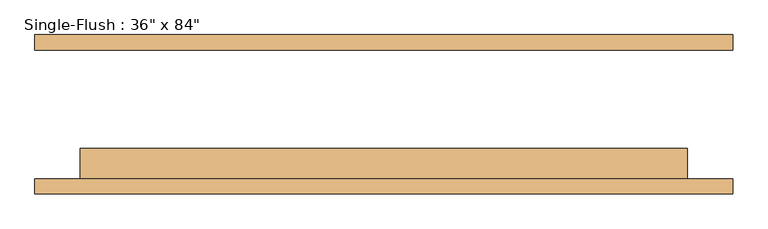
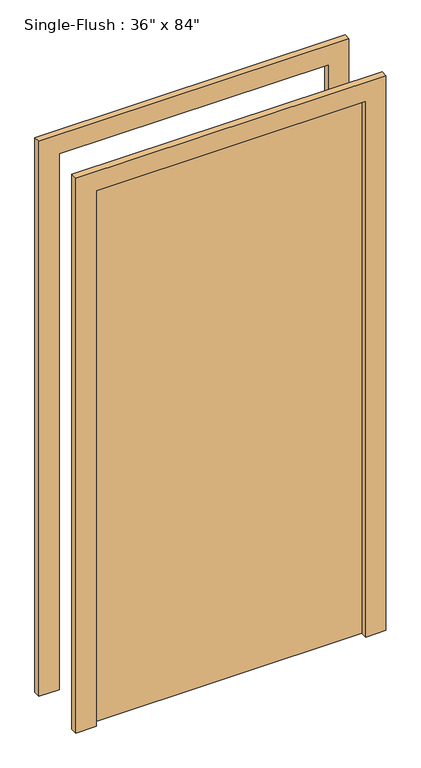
"""IFC4 building model written with IfcOpenShell, lengths in millimetres: door geometry."""

import ifcopenshell
import ifcopenshell.guid

model = None  # the IFC model being written
_history = None  # IfcOwnerHistory: only IFC2X3 demands one
_inside = {}  # id of a spatial element -> (the spatial element, [elements in it])
_under = {}  # id of a project, library or spatial element -> (it, [spatial elements below it])
_declared = {}  # id of a project -> (the project, [libraries it declares])
_typed = {}  # id of a type object -> (the type object, [elements of that type])
_made_of = {}  # id of a material, layer set ... -> (it, [elements and type objects made of it])


def new_model(schema):
    """Start an empty IFC model of exactly this schema.

    Asked for "IFC4X3", IfcOpenShell would pick the latest addendum, in which some entities
    have other attributes; the version numbers below select the first issue.
    IFC2X3 requires an IfcOwnerHistory on every rooted entity: one is made here for all.
    """
    global model, _history
    if schema == "IFC4X3":
        model = ifcopenshell.file(schema_version=(4, 3, 0, 0))
    else:
        model = ifcopenshell.file(schema=schema)
    _inside.clear()
    _under.clear()
    _declared.clear()
    _typed.clear()
    _made_of.clear()
    _history = None
    if model.schema == "IFC2X3":
        org = make("IfcOrganization", Name="unknown")
        user = make(
            "IfcPersonAndOrganization",
            ThePerson=make("IfcPerson", FamilyName="unknown"),
            TheOrganization=org,
        )
        app = make(
            "IfcApplication",
            ApplicationDeveloper=org,
            Version="unknown",
            ApplicationFullName="unknown",
            ApplicationIdentifier="unknown",
        )
        _history = make(
            "IfcOwnerHistory",
            OwningUser=user,
            OwningApplication=app,
            ChangeAction="ADDED",
            CreationDate=0,
        )
    return model


def make(cls, **values):
    """One entity of the class cls with the attributes given. An attribute that is None is left unset."""
    return model.create_entity(
        cls, **{name: value for name, value in values.items() if value is not None}
    )


def rooted(cls, **values):
    """An entity with a GlobalId (a new one), such as an element, a storey or a relation."""
    return make(cls, GlobalId=ifcopenshell.guid.new(), OwnerHistory=_history, **values)


def si_unit(unit_type, name, prefix=None):
    """IfcSIUnit, for example si_unit("LENGTHUNIT", "METRE", prefix="MILLI")."""
    return make("IfcSIUnit", UnitType=unit_type, Prefix=prefix, Name=name)


def assignment(units):
    """IfcUnitAssignment: the units of a project."""
    return None if units is None else make("IfcUnitAssignment", Units=units)


def point(xyz):
    """IfcCartesianPoint."""
    return None if xyz is None else make("IfcCartesianPoint", Coordinates=xyz)


def direction(xyz):
    """IfcDirection."""
    return None if xyz is None else make("IfcDirection", DirectionRatios=xyz)


def frame(location, z_axis=None, x_axis=None):
    """IfcAxis2Placement3D, a coordinate frame: its origin and axes. An axis left out is left unset."""
    return make(
        "IfcAxis2Placement3D",
        Location=point(location),
        Axis=direction(z_axis),
        RefDirection=direction(x_axis),
    )


def origin():
    """The frame at (0, 0, 0) with its axes left unset."""
    return frame((0.0, 0.0, 0.0))


def origin_with_axes():
    """The frame at (0, 0, 0) with the z axis (0, 0, 1) and the x axis (1, 0, 0) written out."""
    return frame((0.0, 0.0, 0.0), z_axis=(0.0, 0.0, 1.0), x_axis=(1.0, 0.0, 0.0))


def place(relative_to, where):
    """IfcLocalPlacement: puts the frame where relative to a parent placement (None: the world)."""
    return make(
        "IfcLocalPlacement", PlacementRelTo=relative_to, RelativePlacement=where
    )


def context(
    kind, dimensions, precision=None, world=None, true_north=None, identifier=None
):
    """IfcGeometricRepresentationContext, for example the 3D "Model" context."""
    return make(
        "IfcGeometricRepresentationContext",
        ContextIdentifier=identifier,
        ContextType=kind,
        CoordinateSpaceDimension=dimensions,
        Precision=precision,
        WorldCoordinateSystem=world,
        TrueNorth=true_north,
    )


def project(units=None, contexts=None):
    """IfcProject with its units and contexts."""
    return rooted(
        "IfcProject",
        Name="project",
        RepresentationContexts=contexts,
        UnitsInContext=assignment(units),
    )


def spatial(cls, under=None, at=None, **own):
    """A site, building, storey or space (cls), placed at a placement, below another one or the project."""
    s = rooted(cls, ObjectPlacement=at, **own)
    if under is not None:
        _under.setdefault(under.id(), (under, []))[1].append(s)
    return s


def polyline(points):
    """IfcPolyline through the points."""
    return make("IfcPolyline", Points=[point(p) for p in points])


def outline(outer, holes=None, kind="AREA"):
    """IfcArbitraryClosedProfileDef: a profile drawn as a closed curve; with holes, ...WithVoids."""
    if holes is None:
        return make("IfcArbitraryClosedProfileDef", ProfileType=kind, OuterCurve=outer)
    return make(
        "IfcArbitraryProfileDefWithVoids",
        ProfileType=kind,
        OuterCurve=outer,
        InnerCurves=holes,
    )


def extrude(swept, where, along, depth):
    """IfcExtrudedAreaSolid: the profile swept, set in the frame where, extruded along a direction by depth."""
    return make(
        "IfcExtrudedAreaSolid",
        SweptArea=swept,
        Position=where,
        ExtrudedDirection=direction(along),
        Depth=depth,
    )


def shape(context_of_items, identifier, shape_type, items):
    """IfcShapeRepresentation: the items that make up one representation, for example the "Body"."""
    return make(
        "IfcShapeRepresentation",
        ContextOfItems=context_of_items,
        RepresentationIdentifier=identifier,
        RepresentationType=shape_type,
        Items=items,
    )


def source(mapping_origin, context_of_items, identifier, shape_type, items):
    """IfcRepresentationMap: a shape defined once, which mapped items show again and again."""
    return make(
        "IfcRepresentationMap",
        MappingOrigin=mapping_origin,
        MappedRepresentation=shape(context_of_items, identifier, shape_type, items),
    )


def transform(
    local_origin,
    x_axis=None,
    y_axis=None,
    z_axis=None,
    scale=None,
    scale2=None,
    scale3=None,
    uniform=True,
):
    """IfcCartesianTransformationOperator3D, or its non-uniform kind. x_axis, y_axis, z_axis: its Axis1, 2, 3."""
    if uniform:
        return make(
            "IfcCartesianTransformationOperator3D",
            Axis1=direction(x_axis),
            Axis2=direction(y_axis),
            LocalOrigin=point(local_origin),
            Scale=scale,
            Axis3=direction(z_axis),
        )
    return make(
        "IfcCartesianTransformationOperator3DnonUniform",
        Axis1=direction(x_axis),
        Axis2=direction(y_axis),
        LocalOrigin=point(local_origin),
        Scale=scale,
        Axis3=direction(z_axis),
        Scale2=scale2,
        Scale3=scale3,
    )


def mapped(mapping_source, mapping_target):
    """IfcMappedItem: shows the shape of a source again, moved by a transform."""
    return make(
        "IfcMappedItem", MappingSource=mapping_source, MappingTarget=mapping_target
    )


def made_of(thing, what):
    """Note that an element or type object is made of a material, layer set ...; save() writes the relation."""
    if what is not None:
        _made_of.setdefault(what.id(), (what, []))[1].append(thing)
    return thing


def element(
    cls,
    number,
    at=None,
    inside=None,
    cuts=None,
    type_object=None,
    material=None,
    context=None,
    identifier="Body",
    shape_type=None,
    held_by="IfcProductDefinitionShape",
    body=None,
    shapes=None,
    **own,
):
    """One element of the class cls, such as IfcWall. Its Tag is "e" and its number.

    at: its placement. inside: the storey or other place that contains it. cuts: it is an
    opening in that element (IfcRelVoidsElement). A single representation is given by context,
    identifier, shape_type and body (its items); several are given by shapes. held_by: the class
    of the entity that holds the representations. save() writes the other relations.
    """
    e = rooted(cls, Tag="e%d" % number, ObjectPlacement=at, **own)
    if body is not None:
        shapes = [shape(context, identifier, shape_type, body)]
    if shapes is not None:
        e.Representation = make(held_by, Representations=shapes)
    if inside is not None:
        _inside.setdefault(inside.id(), (inside, []))[1].append(e)
    if cuts is not None:
        rooted(
            "IfcRelVoidsElement", RelatingBuildingElement=cuts, RelatedOpeningElement=e
        )
    if type_object is not None:
        _typed.setdefault(type_object.id(), (type_object, []))[1].append(e)
    return made_of(e, material)


def aggregate(whole, parts):
    """IfcRelAggregates: a whole, such as a stair, and the parts it consists of."""
    return rooted("IfcRelAggregates", RelatingObject=whole, RelatedObjects=parts)


def save(model, path):
    """Write the relations noted so far, then the file.

    IfcRelAggregates (storeys below a building ...), IfcRelContainedInSpatialStructure (elements
    in a storey), IfcRelDefinesByType, IfcRelAssociatesMaterial and IfcRelDeclares: one each for
    every whole, place, type object, material and project.
    """
    for whole, parts in _under.values():
        aggregate(whole, parts)
    for where, things in _inside.values():
        rooted(
            "IfcRelContainedInSpatialStructure",
            RelatedElements=things,
            RelatingStructure=where,
        )
    for kind, things in _typed.values():
        rooted("IfcRelDefinesByType", RelatedObjects=things, RelatingType=kind)
    for what, things in _made_of.values():
        rooted("IfcRelAssociatesMaterial", RelatedObjects=things, RelatingMaterial=what)
    for by, libraries in _declared.values():
        rooted("IfcRelDeclares", RelatingContext=by, RelatedDefinitions=libraries)
    model.write(path)


def door_bcebd341(model_context):
    return source(origin(), model_context, "Body", "SweptSolid", [
        extrude(outline(polyline([(2209.8, -584.2), (0.0, -584.2), (0.0, -508.0), (2133.6, -508.0), (2133.6, 508.0), (0.0, 508.0), (0.0, 584.2), (2209.8, 584.2), (2209.8, -584.2)])), frame((0.0, -133.35, 0.0), z_axis=(0.0, 1.0, 0.0), x_axis=(0.0, 0.0, 1.0)), (0.0, 0.0, 1.0), 25.4),
        extrude(outline(polyline([(2209.8, 584.2), (2209.8, -584.2), (0.0, -584.2), (0.0, -508.0), (2133.6, -508.0), (2133.6, 508.0), (0.0, 508.0), (0.0, 584.2), (2209.8, 584.2)])), frame((0.0, 107.95, 0.0), z_axis=(0.0, 1.0, 0.0), x_axis=(0.0, 0.0, 1.0)), (0.0, 0.0, 1.0), 25.4),
        extrude(outline(polyline([(508.0, -57.15), (508.0, -107.95), (-508.0, -107.95), (-508.0, -57.15), (508.0, -57.15)])), origin_with_axes(), (0.0, 0.0, 1.0), 2133.6),
    ])


if __name__ == "__main__":
    model = new_model("IFC4")
    model_context = context("Model", 3, world=origin())
    ifc_project = project(units=[si_unit("LENGTHUNIT", "METRE", prefix="MILLI")], contexts=[model_context])
    site = spatial("IfcSite", under=ifc_project)
    building = spatial("IfcBuilding", under=site)
    placement = place(None, origin())
    door_shape = door_bcebd341(model_context)
    element("IfcDoor", 1, ObjectType="Single-Flush : 36\" x 84\"", at=placement, inside=building, context=model_context, shape_type="MappedRepresentation", body=[
        mapped(door_shape, transform((0.0, 0.0, 0.0), x_axis=(1.0, 0.0, 0.0), y_axis=(0.0, 1.0, 0.0), z_axis=(0.0, 0.0, 1.0))),
    ])
    save(model, "model.ifc")
